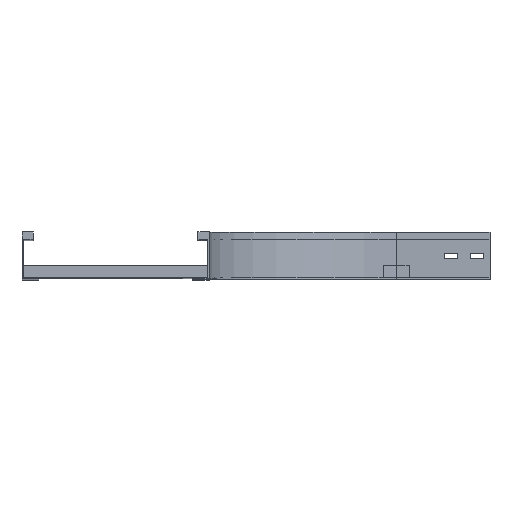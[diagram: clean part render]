
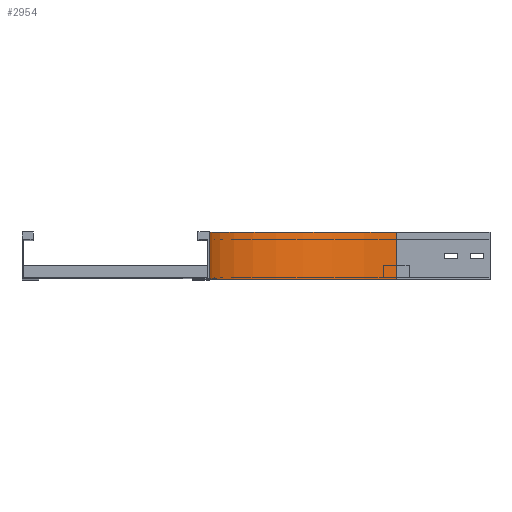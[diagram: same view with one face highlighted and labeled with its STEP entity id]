
A CAD part, top view. The second image highlights one B-rep face of the part: STEP entity #2954.
In plain terms, the highlighted cylindrical face has radius 300 mm (diameter 600 mm), a partial arc.
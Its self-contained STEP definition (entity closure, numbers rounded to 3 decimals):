
#179 = DIRECTION ( 'NONE',  ( -1., 0., 0. ) ) ;
#321 = CARTESIAN_POINT ( 'NONE',  ( 300., 75., -450. ) ) ;
#334 = CYLINDRICAL_SURFACE ( 'NONE', #1004, 300. ) ;
#463 = LINE ( 'NONE', #3426, #856 ) ;
#587 = CARTESIAN_POINT ( 'NONE',  ( 300., 0., -150. ) ) ;
#604 = CIRCLE ( 'NONE', #1917, 300. ) ;
#623 = LINE ( 'NONE', #966, #3848 ) ;
#743 = CARTESIAN_POINT ( 'NONE',  ( 300., 75., -150. ) ) ;
#754 = DIRECTION ( 'NONE',  ( 0., 1., 0. ) ) ;
#856 = VECTOR ( 'NONE', #754, 1000. ) ;
#862 = VERTEX_POINT ( 'NONE', #321 ) ;
#867 = DIRECTION ( 'NONE',  ( 0., -1., 0. ) ) ;
#966 = CARTESIAN_POINT ( 'NONE',  ( 300., 0., -450. ) ) ;
#1004 = AXIS2_PLACEMENT_3D ( 'NONE', #587, #867, #1168 ) ;
#1168 = DIRECTION ( 'NONE',  ( 0., 0., -1. ) ) ;
#1189 = FACE_OUTER_BOUND ( 'NONE', #3503, .T. ) ;
#1284 = VERTEX_POINT ( 'NONE', #3741 ) ;
#1598 = ORIENTED_EDGE ( 'NONE', *, *, #2230, .F. ) ;
#1647 = ORIENTED_EDGE ( 'NONE', *, *, #3400, .T. ) ;
#1680 = DIRECTION ( 'NONE',  ( 0., -1., 0. ) ) ;
#1917 = AXIS2_PLACEMENT_3D ( 'NONE', #3805, #1680, #179 ) ;
#2155 = DIRECTION ( 'NONE',  ( 0., 1., 0. ) ) ;
#2230 = EDGE_CURVE ( 'NONE', #3855, #1284, #463, .T. ) ;
#2321 = DIRECTION ( 'NONE',  ( -1., 0., 0. ) ) ;
#2333 = CARTESIAN_POINT ( 'NONE',  ( 0., 0., -150. ) ) ;
#2499 = EDGE_CURVE ( 'NONE', #3760, #862, #623, .T. ) ;
#2504 = AXIS2_PLACEMENT_3D ( 'NONE', #743, #2634, #2321 ) ;
#2536 = ORIENTED_EDGE ( 'NONE', *, *, #2499, .T. ) ;
#2634 = DIRECTION ( 'NONE',  ( 0., -1., 0. ) ) ;
#2784 = CARTESIAN_POINT ( 'NONE',  ( 300., 0., -450. ) ) ;
#2954 = ADVANCED_FACE ( 'NONE', ( #1189 ), #334, .F. ) ;
#3359 = EDGE_CURVE ( 'NONE', #1284, #862, #3597, .T. ) ;
#3400 = EDGE_CURVE ( 'NONE', #3855, #3760, #604, .T. ) ;
#3426 = CARTESIAN_POINT ( 'NONE',  ( 0., 0., -150. ) ) ;
#3503 = EDGE_LOOP ( 'NONE', ( #3519, #1598, #1647, #2536 ) ) ;
#3519 = ORIENTED_EDGE ( 'NONE', *, *, #3359, .F. ) ;
#3597 = CIRCLE ( 'NONE', #2504, 300. ) ;
#3741 = CARTESIAN_POINT ( 'NONE',  ( 0., 75., -150. ) ) ;
#3760 = VERTEX_POINT ( 'NONE', #2784 ) ;
#3805 = CARTESIAN_POINT ( 'NONE',  ( 300., 0., -150. ) ) ;
#3848 = VECTOR ( 'NONE', #2155, 1000. ) ;
#3855 = VERTEX_POINT ( 'NONE', #2333 ) ;
